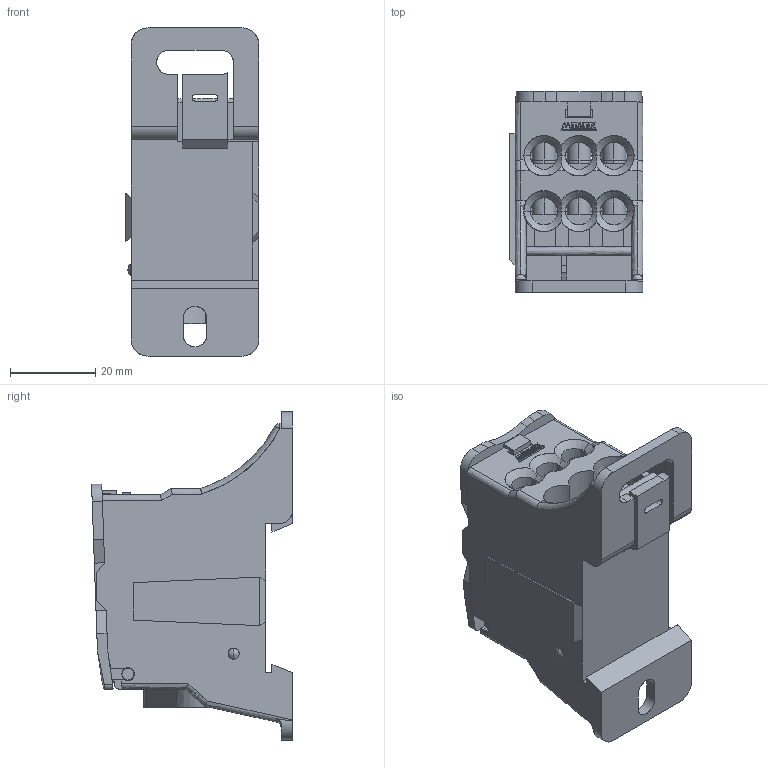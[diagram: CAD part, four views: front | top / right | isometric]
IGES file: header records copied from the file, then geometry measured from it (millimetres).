
Start section: SolidWorks IGES file using analytic representation for surfaces
Global section: file name: D:\X - Arquivos\PROEX\Empresas\P11 - METALTEX\01 - Produtos\IGES\5ª remessa\2ª etapa\BDA160.IGS; native system: SolidWorks 2012; preprocessor: SolidWorks 2012; author: Usuario; date: 180810.165937; units: millimetre
Bounding box: 31.4 x 47.09 x 77 mm (x, y, z)
Surface area: 22814.7 mm2 (no closed solid volume)
Topology: 0 solids, 0 shells, 522 faces, 6683 edges, 6683 vertices
Faces by surface type: bspline 354, revolution 168
